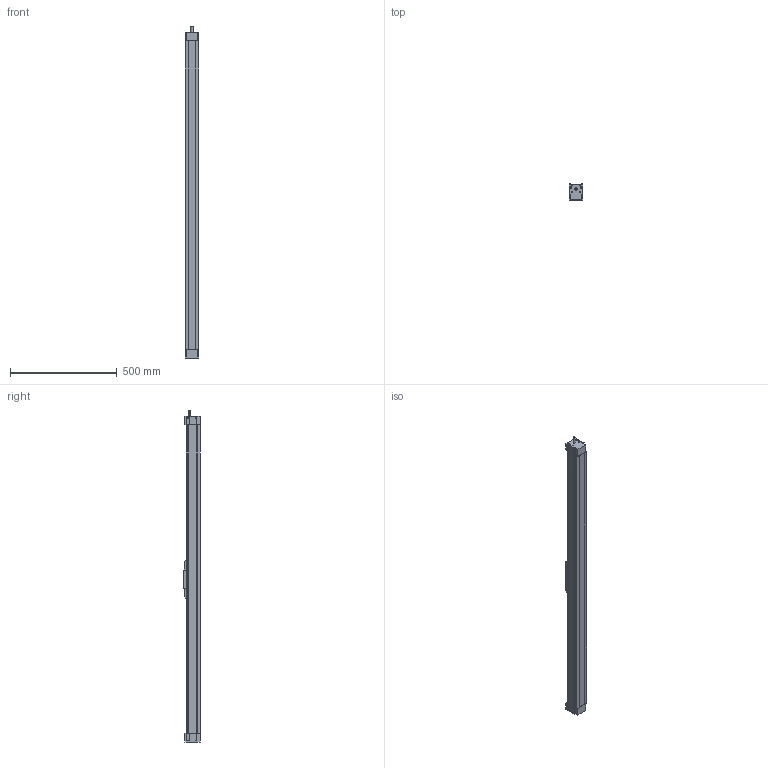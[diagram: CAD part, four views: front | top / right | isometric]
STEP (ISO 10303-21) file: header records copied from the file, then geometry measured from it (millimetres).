
FILE_DESCRIPTION (( 'STEP AP203' ), '1' );
FILE_NAME ('MSX65B-1200-LL1616-P7.STEP', '2013-11-02T03:03:00', ( '微软用户' ), ( '微软中国' ), 'SwSTEP 2.0', 'SolidWorks 2010', '' );
FILE_SCHEMA (( 'CONFIG_CONTROL_DESIGN' ));
Length unit declared in the file: millimetre
Products named in the file (1): MSX65B-1200-LL1616-P7
Bounding box: 65 x 79 x 1554 mm (x, y, z)
Volume: 6025754.4 mm3; surface area: 766137.3 mm2
Topology: 2 solids, 2 shells, 405 faces, 1036 edges, 638 vertices
Faces by surface type: plane 319, cylinder 66, cone 20
Entity records: 12073 total; most frequent: DIRECTION 2080, CARTESIAN_POINT 2068, ORIENTED_EDGE 2048, EDGE_CURVE 1024, VECTOR 780, LINE 780, AXIS2_PLACEMENT_3D 650, VERTEX_POINT 638
